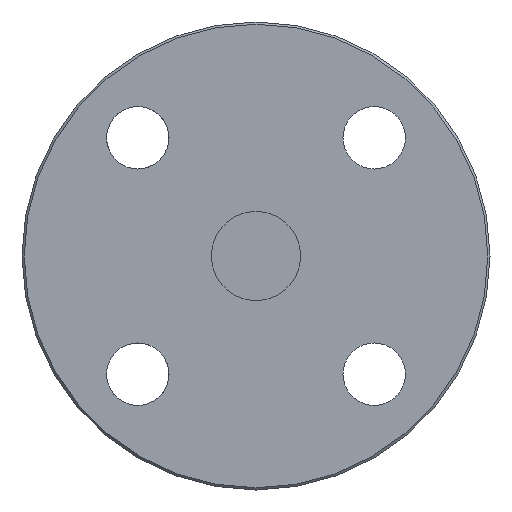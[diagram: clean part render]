
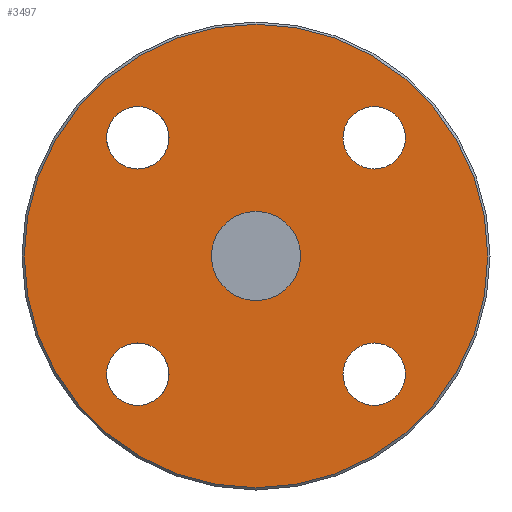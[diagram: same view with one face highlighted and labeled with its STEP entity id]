
A CAD part, left-side view. The second image highlights one B-rep face of the part: STEP entity #3497.
In plain terms, the highlighted planar face has unit normal (-1, 0, 0).
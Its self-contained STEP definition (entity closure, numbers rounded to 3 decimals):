
#62=CIRCLE('',#3675,7.);
#63=CIRCLE('',#3676,7.);
#68=CIRCLE('',#3683,7.);
#69=CIRCLE('',#3684,7.);
#73=CIRCLE('',#3690,7.);
#74=CIRCLE('',#3691,7.);
#78=CIRCLE('',#3697,7.);
#79=CIRCLE('',#3698,7.);
#90=CIRCLE('',#3719,10.);
#101=CIRCLE('',#3739,52.);
#865=FACE_BOUND('',#1258,.T.);
#866=FACE_BOUND('',#1259,.T.);
#867=FACE_BOUND('',#1260,.T.);
#868=FACE_BOUND('',#1261,.T.);
#869=FACE_BOUND('',#1262,.T.);
#1041=FACE_OUTER_BOUND('',#1257,.T.);
#1257=EDGE_LOOP('',(#3091));
#1258=EDGE_LOOP('',(#3092,#3093));
#1259=EDGE_LOOP('',(#3094,#3095));
#1260=EDGE_LOOP('',(#3096,#3097));
#1261=EDGE_LOOP('',(#3098,#3099));
#1262=EDGE_LOOP('',(#3100));
#1637=VERTEX_POINT('',#6061);
#1638=VERTEX_POINT('',#6062);
#1644=VERTEX_POINT('',#6096);
#1645=VERTEX_POINT('',#6097);
#1649=VERTEX_POINT('',#6110);
#1650=VERTEX_POINT('',#6111);
#1654=VERTEX_POINT('',#6124);
#1655=VERTEX_POINT('',#6125);
#1670=VERTEX_POINT('',#6243);
#1686=VERTEX_POINT('',#6286);
#2100=EDGE_CURVE('',#1637,#1638,#62,.T.);
#2101=EDGE_CURVE('',#1638,#1637,#63,.T.);
#2109=EDGE_CURVE('',#1644,#1645,#68,.T.);
#2110=EDGE_CURVE('',#1645,#1644,#69,.T.);
#2116=EDGE_CURVE('',#1649,#1650,#73,.T.);
#2117=EDGE_CURVE('',#1650,#1649,#74,.T.);
#2123=EDGE_CURVE('',#1654,#1655,#78,.T.);
#2124=EDGE_CURVE('',#1655,#1654,#79,.T.);
#2145=EDGE_CURVE('',#1670,#1670,#90,.T.);
#2166=EDGE_CURVE('',#1686,#1686,#101,.T.);
#3091=ORIENTED_EDGE('',*,*,#2166,.F.);
#3092=ORIENTED_EDGE('',*,*,#2100,.T.);
#3093=ORIENTED_EDGE('',*,*,#2101,.T.);
#3094=ORIENTED_EDGE('',*,*,#2109,.T.);
#3095=ORIENTED_EDGE('',*,*,#2110,.T.);
#3096=ORIENTED_EDGE('',*,*,#2116,.T.);
#3097=ORIENTED_EDGE('',*,*,#2117,.T.);
#3098=ORIENTED_EDGE('',*,*,#2123,.T.);
#3099=ORIENTED_EDGE('',*,*,#2124,.T.);
#3100=ORIENTED_EDGE('',*,*,#2145,.T.);
#3307=PLANE('',#3740);
#3497=ADVANCED_FACE('',(#1041,#865,#866,#867,#868,#869),#3307,.T.);
#3675=AXIS2_PLACEMENT_3D('',#6063,#4342,#4343);
#3676=AXIS2_PLACEMENT_3D('',#6064,#4344,#4345);
#3683=AXIS2_PLACEMENT_3D('',#6098,#4360,#4361);
#3684=AXIS2_PLACEMENT_3D('',#6099,#4362,#4363);
#3690=AXIS2_PLACEMENT_3D('',#6112,#4376,#4377);
#3691=AXIS2_PLACEMENT_3D('',#6113,#4378,#4379);
#3697=AXIS2_PLACEMENT_3D('',#6126,#4392,#4393);
#3698=AXIS2_PLACEMENT_3D('',#6127,#4394,#4395);
#3719=AXIS2_PLACEMENT_3D('',#6244,#4439,#4440);
#3739=AXIS2_PLACEMENT_3D('',#6288,#4487,#4488);
#3740=AXIS2_PLACEMENT_3D('',#6289,#4489,#4490);
#4342=DIRECTION('center_axis',(1.,0.,0.));
#4343=DIRECTION('ref_axis',(0.,0.,1.));
#4344=DIRECTION('center_axis',(1.,0.,0.));
#4345=DIRECTION('ref_axis',(0.,0.,1.));
#4360=DIRECTION('center_axis',(1.,0.,0.));
#4361=DIRECTION('ref_axis',(0.,0.,1.));
#4362=DIRECTION('center_axis',(1.,0.,0.));
#4363=DIRECTION('ref_axis',(0.,0.,1.));
#4376=DIRECTION('center_axis',(1.,0.,0.));
#4377=DIRECTION('ref_axis',(0.,0.,1.));
#4378=DIRECTION('center_axis',(1.,0.,0.));
#4379=DIRECTION('ref_axis',(0.,0.,1.));
#4392=DIRECTION('center_axis',(1.,0.,0.));
#4393=DIRECTION('ref_axis',(0.,0.,1.));
#4394=DIRECTION('center_axis',(1.,0.,0.));
#4395=DIRECTION('ref_axis',(0.,0.,1.));
#4439=DIRECTION('center_axis',(1.,0.,0.));
#4440=DIRECTION('ref_axis',(0.,0.,-1.));
#4487=DIRECTION('center_axis',(1.,0.,0.));
#4488=DIRECTION('ref_axis',(0.,-1.,0.));
#4489=DIRECTION('center_axis',(-1.,0.,0.));
#4490=DIRECTION('ref_axis',(0.,0.,1.));
#6061=CARTESIAN_POINT('',(-32.5,26.517,33.517));
#6062=CARTESIAN_POINT('',(-32.5,26.517,19.517));
#6063=CARTESIAN_POINT('Origin',(-32.5,26.517,26.517));
#6064=CARTESIAN_POINT('Origin',(-32.5,26.517,26.517));
#6096=CARTESIAN_POINT('',(-32.5,-26.517,33.517));
#6097=CARTESIAN_POINT('',(-32.5,-26.517,19.517));
#6098=CARTESIAN_POINT('Origin',(-32.5,-26.517,26.517));
#6099=CARTESIAN_POINT('Origin',(-32.5,-26.517,26.517));
#6110=CARTESIAN_POINT('',(-32.5,-26.517,-19.517));
#6111=CARTESIAN_POINT('',(-32.5,-26.517,-33.517));
#6112=CARTESIAN_POINT('Origin',(-32.5,-26.517,-26.517));
#6113=CARTESIAN_POINT('Origin',(-32.5,-26.517,-26.517));
#6124=CARTESIAN_POINT('',(-32.5,26.517,-19.517));
#6125=CARTESIAN_POINT('',(-32.5,26.517,-33.517));
#6126=CARTESIAN_POINT('Origin',(-32.5,26.517,-26.517));
#6127=CARTESIAN_POINT('Origin',(-32.5,26.517,-26.517));
#6243=CARTESIAN_POINT('',(-32.5,0.,10.));
#6244=CARTESIAN_POINT('Origin',(-32.5,0.,0.));
#6286=CARTESIAN_POINT('',(-32.5,52.,0.));
#6288=CARTESIAN_POINT('Origin',(-32.5,0.,0.));
#6289=CARTESIAN_POINT('Origin',(-32.5,26.25,0.));
